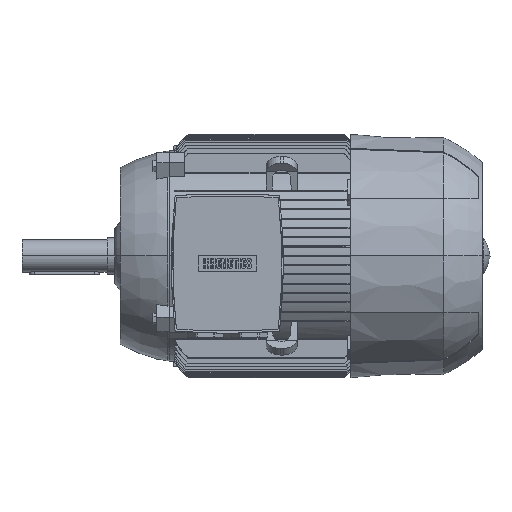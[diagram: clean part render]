
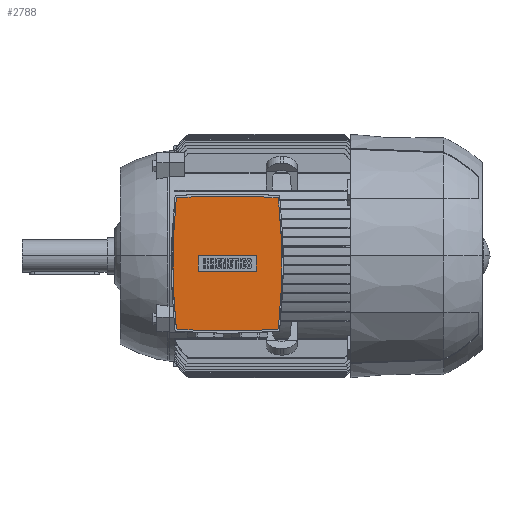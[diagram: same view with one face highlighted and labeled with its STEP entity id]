
A CAD part, top view. The second image highlights one B-rep face of the part: STEP entity #2788.
In plain terms, the highlighted planar face has unit normal (0, 0, 1).
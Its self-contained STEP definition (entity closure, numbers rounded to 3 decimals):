
#2788=ADVANCED_FACE('',(#5836,#5837),#5838,.T.);
#5836=FACE_BOUND('',#9159,.T.);
#5837=FACE_OUTER_BOUND('',#9160,.T.);
#5838=PLANE('',#9161);
#9159=EDGE_LOOP('',(#17933,#17934,#17935,#17936));
#9160=EDGE_LOOP('',(#17937,#17938,#17939,#17940,#17941,#17942));
#9161=AXIS2_PLACEMENT_3D('',#17943,#17944,#17945);
#17933=ORIENTED_EDGE('',*,*,#23771,.T.);
#17934=ORIENTED_EDGE('',*,*,#23775,.T.);
#17935=ORIENTED_EDGE('',*,*,#23778,.T.);
#17936=ORIENTED_EDGE('',*,*,#23780,.T.);
#17937=ORIENTED_EDGE('',*,*,#23855,.T.);
#17938=ORIENTED_EDGE('',*,*,#23857,.T.);
#17939=ORIENTED_EDGE('',*,*,#20648,.T.);
#17940=ORIENTED_EDGE('',*,*,#23849,.T.);
#17941=ORIENTED_EDGE('',*,*,#20659,.T.);
#17942=ORIENTED_EDGE('',*,*,#23846,.T.);
#17943=CARTESIAN_POINT('',(75.0,-10.0,236.5));
#17944=DIRECTION('',(0.0,0.0,1.0));
#17945=DIRECTION('',(0.0,-1.0,0.0));
#20648=EDGE_CURVE('',#24956,#24960,#24962,.T.);
#20659=EDGE_CURVE('',#24982,#24979,#24983,.T.);
#23771=EDGE_CURVE('',#29652,#29650,#29653,.T.);
#23775=EDGE_CURVE('',#29650,#29656,#29658,.T.);
#23778=EDGE_CURVE('',#29656,#29660,#29662,.T.);
#23780=EDGE_CURVE('',#29660,#29652,#29664,.T.);
#23846=EDGE_CURVE('',#24979,#29756,#29758,.T.);
#23849=EDGE_CURVE('',#24960,#24982,#29761,.T.);
#23855=EDGE_CURVE('',#29756,#29766,#29768,.T.);
#23857=EDGE_CURVE('',#29766,#24956,#29770,.T.);
#24956=VERTEX_POINT('',#32157);
#24960=VERTEX_POINT('',#32162);
#24962=CIRCLE('',#32165,896.1);
#24979=VERTEX_POINT('',#32207);
#24982=VERTEX_POINT('',#32211);
#24983=CIRCLE('',#32212,896.1);
#29650=VERTEX_POINT('',#46128);
#29652=VERTEX_POINT('',#46131);
#29653=LINE('',#46132,#46133);
#29656=VERTEX_POINT('',#46137);
#29658=LINE('',#46140,#46141);
#29660=VERTEX_POINT('',#46143);
#29662=LINE('',#46146,#46147);
#29664=LINE('',#46149,#46150);
#29756=VERTEX_POINT('',#46284);
#29758=CIRCLE('',#46287,896.1);
#29761=CIRCLE('',#46290,770.0);
#29766=VERTEX_POINT('',#46296);
#29768=CIRCLE('',#46299,770.0);
#29770=CIRCLE('',#46301,896.1);
#32157=CARTESIAN_POINT('',(75.,-97.0,236.5));
#32162=CARTESIAN_POINT('',(140.841,-94.578,236.5));
#32165=AXIS2_PLACEMENT_3D('',#49263,#49264,#49265);
#32207=CARTESIAN_POINT('',(75.,77.0,236.5));
#32211=CARTESIAN_POINT('',(140.841,74.578,236.5));
#32212=AXIS2_PLACEMENT_3D('',#49279,#49280,#49281);
#46128=CARTESIAN_POINT('',(37.5,-20.05,236.5));
#46131=CARTESIAN_POINT('',(112.5,-20.05,236.5));
#46132=CARTESIAN_POINT('',(75.0,-20.05,236.5));
#46133=VECTOR('',#52081,1.0);
#46137=CARTESIAN_POINT('',(37.5,0.05,236.5));
#46140=CARTESIAN_POINT('',(37.5,-10.0,236.5));
#46141=VECTOR('',#52084,1.0);
#46143=CARTESIAN_POINT('',(112.5,0.05,236.5));
#46146=CARTESIAN_POINT('',(75.0,0.05,236.5));
#46147=VECTOR('',#52086,1.0);
#46149=CARTESIAN_POINT('',(112.5,-10.0,236.5));
#46150=VECTOR('',#52087,1.0);
#46284=CARTESIAN_POINT('',(9.159,74.578,236.5));
#46287=AXIS2_PLACEMENT_3D('',#52185,#52186,#52187);
#46290=AXIS2_PLACEMENT_3D('',#52188,#52189,#52190);
#46296=CARTESIAN_POINT('',(9.159,-94.578,236.5));
#46299=AXIS2_PLACEMENT_3D('',#52193,#52194,#52195);
#46301=AXIS2_PLACEMENT_3D('',#52196,#52197,#52198);
#49263=CARTESIAN_POINT('',(75.0,799.1,236.5));
#49264=DIRECTION('',(0.0,-0.0,1.0));
#49265=DIRECTION('',(0.0,1.0,0.0));
#49279=CARTESIAN_POINT('',(75.0,-819.1,236.5));
#49280=DIRECTION('',(0.0,-0.0,1.0));
#49281=DIRECTION('',(0.0,1.0,0.0));
#52081=DIRECTION('',(-1.0,0.0,0.0));
#52084=DIRECTION('',(0.0,1.0,0.0));
#52086=DIRECTION('',(1.0,0.0,-0.0));
#52087=DIRECTION('',(0.0,-1.0,0.0));
#52185=CARTESIAN_POINT('',(75.0,-819.1,236.5));
#52186=DIRECTION('',(0.0,-0.0,1.0));
#52187=DIRECTION('',(0.0,1.0,0.0));
#52188=CARTESIAN_POINT('',(-624.5,-10.0,236.5));
#52189=DIRECTION('',(0.0,-0.0,1.0));
#52190=DIRECTION('',(0.0,1.0,0.0));
#52193=CARTESIAN_POINT('',(774.5,-10.0,236.5));
#52194=DIRECTION('',(0.0,-0.0,1.0));
#52195=DIRECTION('',(0.0,1.0,0.0));
#52196=CARTESIAN_POINT('',(75.0,799.1,236.5));
#52197=DIRECTION('',(0.0,-0.0,1.0));
#52198=DIRECTION('',(0.0,1.0,0.0));
